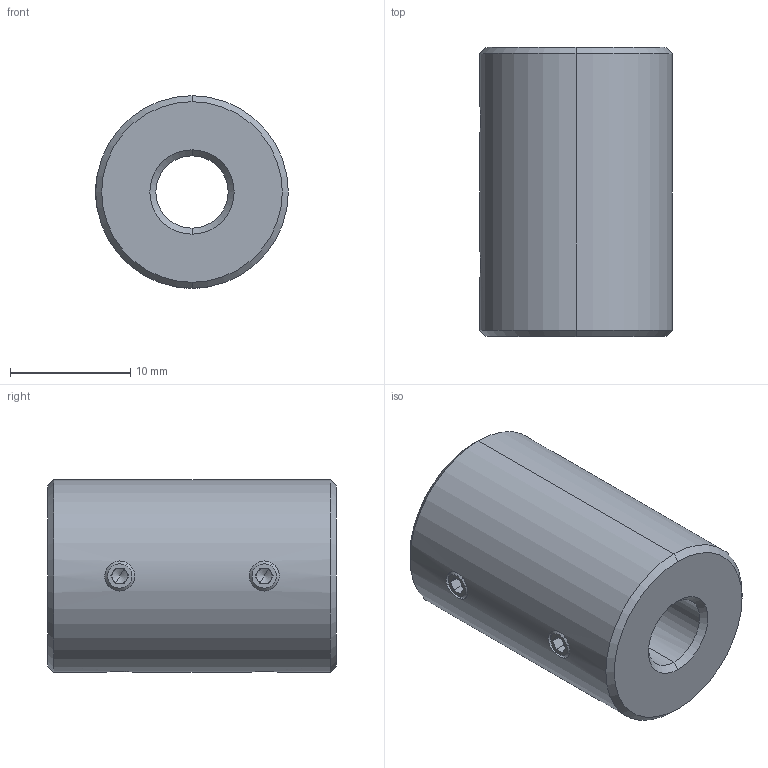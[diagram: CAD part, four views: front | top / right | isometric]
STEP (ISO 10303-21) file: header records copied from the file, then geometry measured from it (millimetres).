
FILE_DESCRIPTION (( 'STEP AP214' ), '1' );
FILE_NAME ('LL-D-D16L24-6-6.35.STEP', '2022-07-23T07:04:55', ( '' ), ( '' ), 'SwSTEP 2.0', 'SolidWorks 2022', '' );
FILE_SCHEMA (( 'AUTOMOTIVE_DESIGN' ));
Length unit declared in the file: millimetre
Products named in the file (1): LL-D-D16L24-6-6.35
Bounding box: 16 x 24 x 16 mm (x, y, z)
Volume: 4058.1 mm3; surface area: 2061.3 mm2
Topology: 1 solids, 1 shells, 113 faces, 286 edges, 176 vertices
Faces by surface type: plane 59, cone 32, cylinder 22
Entity records: 3646 total; most frequent: CARTESIAN_POINT 896, DIRECTION 582, ORIENTED_EDGE 556, EDGE_CURVE 278, AXIS2_PLACEMENT_3D 214, VERTEX_POINT 176, LINE 154, VECTOR 154
